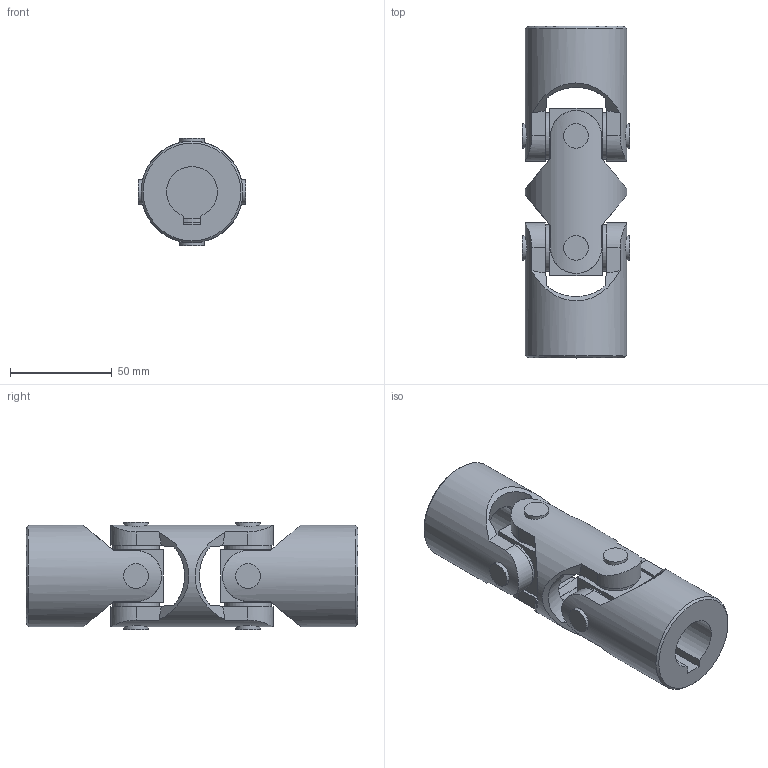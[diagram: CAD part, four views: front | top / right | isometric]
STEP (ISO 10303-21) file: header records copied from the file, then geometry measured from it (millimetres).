
FILE_DESCRIPTION(/* description */ (''),/* implementation_level */ '2;1');
FILE_NAME(/* name */ '\\SRV2016\Societa\Stefano\Disegni 3D\0Catalogo 3D\14Doppi XD\Ø50_5XD_SX0D252C.stp',/* time_stamp */ '2023-05-15T09:11:33+02:00',/* author */ ('acquisti'),/* organization */ (''),/* preprocessor_version */ 'ST-DEVELOPER v15.6',/* originating_system */ 'Autodesk Inventor 2015',/* authorisation */ '');
FILE_SCHEMA (('AUTOMOTIVE_DESIGN { 1 0 10303 214 3 1 1 }'));
Length unit declared in the file: millimetre
Products named in the file (4): 5X SFE; 5X MOD; 5X MOC; Ø50_5XD_SX0D2500
Assembly tree (5 placements, depth 2):
  Ø50_5XD_SX0D2500
    5X SFE  x2
    5X MOD
    5X MOC  x2
Bounding box: 52.76 x 163 x 52.76 mm (x, y, z)
Volume: 209528.9 mm3; surface area: 52431.4 mm2
Topology: 5 solids, 5 shells, 127 faces, 331 edges, 226 vertices
Faces by surface type: plane 68, cylinder 33, cone 22, torus 4
Full cylindrical faces by diameter (mm): 12 x8, 23 x8, 28 x2, 50 x3
Entity records: 3180 total; most frequent: CARTESIAN_POINT 1218, ORIENTED_EDGE 392, DIRECTION 365, EDGE_CURVE 196, AXIS2_PLACEMENT_3D 154, VERTEX_POINT 144, EDGE_LOOP 116, FACE_OUTER_BOUND 85
